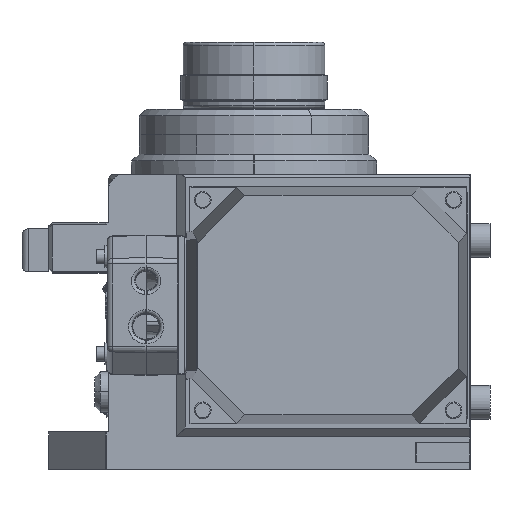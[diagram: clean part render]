
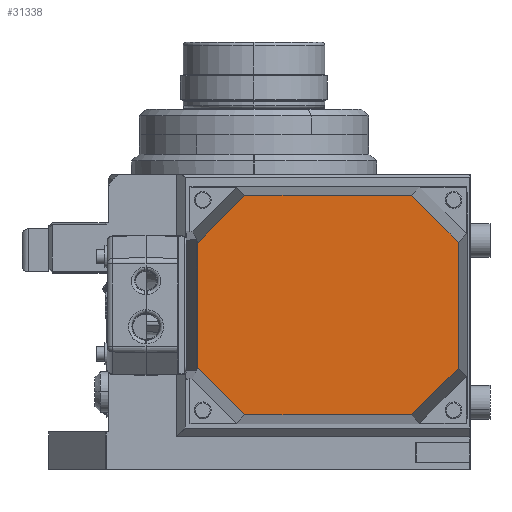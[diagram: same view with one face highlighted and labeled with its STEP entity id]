
A CAD part, left-side view. The second image highlights one B-rep face of the part: STEP entity #31338.
In plain terms, the highlighted planar face has unit normal (-1, 0, 0).
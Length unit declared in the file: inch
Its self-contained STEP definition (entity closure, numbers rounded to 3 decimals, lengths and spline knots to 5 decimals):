
#1247 = LINE ( 'NONE', #35005, #10366 ) ;
#1736 = PLANE ( 'NONE',  #62416 ) ;
#4087 = LINE ( 'NONE', #62884, #55059 ) ;
#5996 = CARTESIAN_POINT ( 'NONE',  ( -7.36775, 1.42131, -1.11731 ) ) ;
#6006 = VERTEX_POINT ( 'NONE', #41243 ) ;
#7201 = EDGE_CURVE ( 'NONE', #51097, #13169, #72595, .T. ) ;
#7822 = VERTEX_POINT ( 'NONE', #54433 ) ;
#9834 = DIRECTION ( 'NONE',  ( 0., 0.707, -0.707 ) ) ;
#10239 = ORIENTED_EDGE ( 'NONE', *, *, #44376, .F. ) ;
#10366 = VECTOR ( 'NONE', #27957, 39.37008 ) ;
#11025 = VERTEX_POINT ( 'NONE', #17776 ) ;
#11745 = DIRECTION ( 'NONE',  ( 0., 0., 1. ) ) ;
#12437 = DIRECTION ( 'NONE',  ( 0., 0., 1. ) ) ;
#12706 = VECTOR ( 'NONE', #45739, 39.37008 ) ;
#13169 = VERTEX_POINT ( 'NONE', #15138 ) ;
#13383 = VERTEX_POINT ( 'NONE', #71400 ) ;
#13756 = VERTEX_POINT ( 'NONE', #26444 ) ;
#13757 = CARTESIAN_POINT ( 'NONE',  ( -7.36775, 1.03401, -1.16889 ) ) ;
#13837 = EDGE_CURVE ( 'NONE', #29984, #11025, #52357, .T. ) ;
#15117 = DIRECTION ( 'NONE',  ( 0., 0., 1. ) ) ;
#15138 = CARTESIAN_POINT ( 'NONE',  ( -7.36775, 1.03401, -1.16487 ) ) ;
#15152 = ORIENTED_EDGE ( 'NONE', *, *, #13837, .T. ) ;
#15375 = EDGE_CURVE ( 'NONE', #13383, #6006, #22726, .T. ) ;
#17633 = LINE ( 'NONE', #23762, #52708 ) ;
#17776 = CARTESIAN_POINT ( 'NONE',  ( -7.36775, 1.03859, 1.1643 ) ) ;
#19968 = DIRECTION ( 'NONE',  ( 0., -0.993, -0.122 ) ) ;
#21025 = VERTEX_POINT ( 'NONE', #82171 ) ;
#21035 = EDGE_CURVE ( 'NONE', #29984, #45560, #68149, .T. ) ;
#22726 = LINE ( 'NONE', #69645, #81362 ) ;
#22904 = VECTOR ( 'NONE', #37850, 39.37008 ) ;
#23664 = VECTOR ( 'NONE', #19968, 39.37008 ) ;
#23762 = CARTESIAN_POINT ( 'NONE',  ( -7.36775, 1.19994, 2.03407 ) ) ;
#26444 = CARTESIAN_POINT ( 'NONE',  ( -7.36775, 0.16882, -2.03407 ) ) ;
#26779 = VECTOR ( 'NONE', #12437, 39.37008 ) ;
#27335 = ORIENTED_EDGE ( 'NONE', *, *, #46355, .F. ) ;
#27957 = DIRECTION ( 'NONE',  ( 0., -0.707, -0.707 ) ) ;
#27990 = VERTEX_POINT ( 'NONE', #13757 ) ;
#29836 = CARTESIAN_POINT ( 'NONE',  ( -7.36775, 1.03401, 1.16487 ) ) ;
#29984 = VERTEX_POINT ( 'NONE', #29836 ) ;
#31338 = ADVANCED_FACE ( 'NONE', ( #82818 ), #1736, .T. ) ;
#35005 = CARTESIAN_POINT ( 'NONE',  ( -7.36775, 1.03401, -1.16889 ) ) ;
#35062 = DIRECTION ( 'NONE',  ( 0., 0.707, 0.707 ) ) ;
#36857 = EDGE_CURVE ( 'NONE', #51097, #11025, #45743, .T. ) ;
#37593 = DIRECTION ( 'NONE',  ( 0., 0., 1. ) ) ;
#37850 = DIRECTION ( 'NONE',  ( 0., -0.707, 0.707 ) ) ;
#39828 = ORIENTED_EDGE ( 'NONE', *, *, #81932, .F. ) ;
#39891 = ORIENTED_EDGE ( 'NONE', *, *, #50252, .F. ) ;
#41243 = CARTESIAN_POINT ( 'NONE',  ( -7.36775, -2.91895, 2.03407 ) ) ;
#43614 = ORIENTED_EDGE ( 'NONE', *, *, #15375, .T. ) ;
#44376 = EDGE_CURVE ( 'NONE', #13383, #21025, #44738, .T. ) ;
#44548 = VERTEX_POINT ( 'NONE', #60947 ) ;
#44696 = ORIENTED_EDGE ( 'NONE', *, *, #72517, .F. ) ;
#44738 = LINE ( 'NONE', #71467, #52421 ) ;
#45560 = VERTEX_POINT ( 'NONE', #79380 ) ;
#45739 = DIRECTION ( 'NONE',  ( 0., 0.993, -0.122 ) ) ;
#45743 = LINE ( 'NONE', #59782, #26779 ) ;
#46355 = EDGE_CURVE ( 'NONE', #27990, #13169, #56038, .T. ) ;
#47563 = CARTESIAN_POINT ( 'NONE',  ( -7.36775, 1.03859, -1.1643 ) ) ;
#48867 = CARTESIAN_POINT ( 'NONE',  ( -7.36775, 1.03401, 2.2 ) ) ;
#50252 = EDGE_CURVE ( 'NONE', #45560, #7822, #85204, .T. ) ;
#51097 = VERTEX_POINT ( 'NONE', #47563 ) ;
#51739 = ORIENTED_EDGE ( 'NONE', *, *, #74345, .T. ) ;
#52091 = DIRECTION ( 'NONE',  ( -1., 0., 0. ) ) ;
#52357 = LINE ( 'NONE', #79056, #12706 ) ;
#52421 = VECTOR ( 'NONE', #83354, 39.37008 ) ;
#52708 = VECTOR ( 'NONE', #57113, 39.37008 ) ;
#54433 = CARTESIAN_POINT ( 'NONE',  ( -7.36775, 0.16882, 2.03407 ) ) ;
#54821 = CARTESIAN_POINT ( 'NONE',  ( -7.36775, 1.19994, -2.03407 ) ) ;
#55059 = VECTOR ( 'NONE', #9834, 39.37008 ) ;
#56038 = LINE ( 'NONE', #56898, #75160 ) ;
#56898 = CARTESIAN_POINT ( 'NONE',  ( -7.36775, 1.03401, 2.2 ) ) ;
#57113 = DIRECTION ( 'NONE',  ( 0., -1., 0. ) ) ;
#58215 = CARTESIAN_POINT ( 'NONE',  ( -7.36775, 1.19994, -2.2 ) ) ;
#58458 = VECTOR ( 'NONE', #67093, 39.37008 ) ;
#59782 = CARTESIAN_POINT ( 'NONE',  ( -7.36775, 1.03859, -2.2 ) ) ;
#60947 = CARTESIAN_POINT ( 'NONE',  ( -7.36775, -2.91895, -2.03407 ) ) ;
#62416 = AXIS2_PLACEMENT_3D ( 'NONE', #58215, #52091, #11745 ) ;
#62884 = CARTESIAN_POINT ( 'NONE',  ( -7.36775, -2.91895, -2.03407 ) ) ;
#65352 = ORIENTED_EDGE ( 'NONE', *, *, #7201, .T. ) ;
#66208 = ORIENTED_EDGE ( 'NONE', *, *, #70397, .F. ) ;
#67093 = DIRECTION ( 'NONE',  ( 0., 1., 0. ) ) ;
#68149 = LINE ( 'NONE', #48867, #82216 ) ;
#69645 = CARTESIAN_POINT ( 'NONE',  ( -7.36775, -2.91895, 2.03407 ) ) ;
#70397 = EDGE_CURVE ( 'NONE', #44548, #13756, #86422, .T. ) ;
#71400 = CARTESIAN_POINT ( 'NONE',  ( -7.36775, -3.78414, 1.16889 ) ) ;
#71467 = CARTESIAN_POINT ( 'NONE',  ( -7.36775, -3.78414, 2.2 ) ) ;
#72517 = EDGE_CURVE ( 'NONE', #21025, #44548, #4087, .T. ) ;
#72595 = LINE ( 'NONE', #5996, #23664 ) ;
#73410 = ORIENTED_EDGE ( 'NONE', *, *, #21035, .F. ) ;
#73867 = EDGE_LOOP ( 'NONE', ( #76064, #65352, #27335, #51739, #66208, #44696, #10239, #43614, #39828, #39891, #73410, #15152 ) ) ;
#74345 = EDGE_CURVE ( 'NONE', #27990, #13756, #1247, .T. ) ;
#75160 = VECTOR ( 'NONE', #37593, 39.37008 ) ;
#76064 = ORIENTED_EDGE ( 'NONE', *, *, #36857, .F. ) ;
#79056 = CARTESIAN_POINT ( 'NONE',  ( -7.36775, -1.40369, 1.46418 ) ) ;
#79380 = CARTESIAN_POINT ( 'NONE',  ( -7.36775, 1.03401, 1.16889 ) ) ;
#79445 = CARTESIAN_POINT ( 'NONE',  ( -7.36775, 1.03401, 1.16889 ) ) ;
#81362 = VECTOR ( 'NONE', #35062, 39.37008 ) ;
#81932 = EDGE_CURVE ( 'NONE', #7822, #6006, #17633, .T. ) ;
#82171 = CARTESIAN_POINT ( 'NONE',  ( -7.36775, -3.78414, -1.16889 ) ) ;
#82216 = VECTOR ( 'NONE', #15117, 39.37008 ) ;
#82818 = FACE_OUTER_BOUND ( 'NONE', #73867, .T. ) ;
#83354 = DIRECTION ( 'NONE',  ( 0., 0., -1. ) ) ;
#85204 = LINE ( 'NONE', #79445, #22904 ) ;
#86422 = LINE ( 'NONE', #54821, #58458 ) ;
